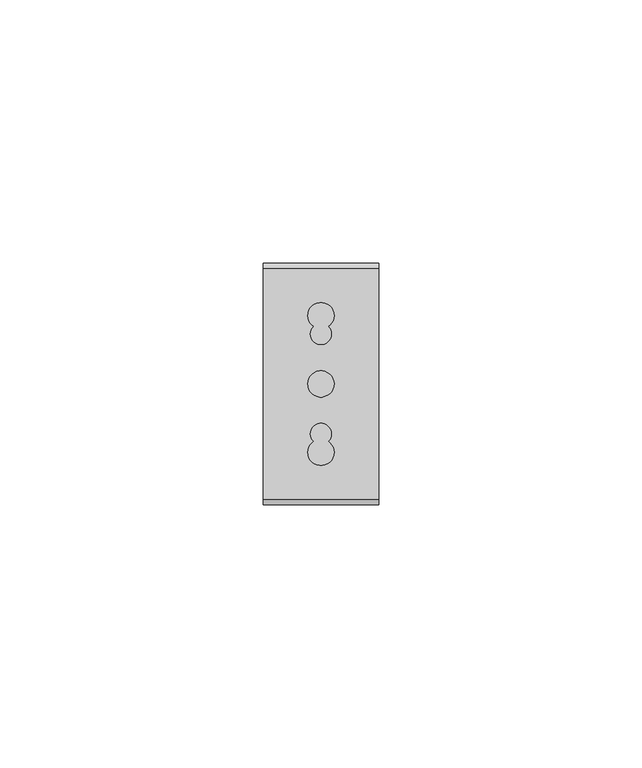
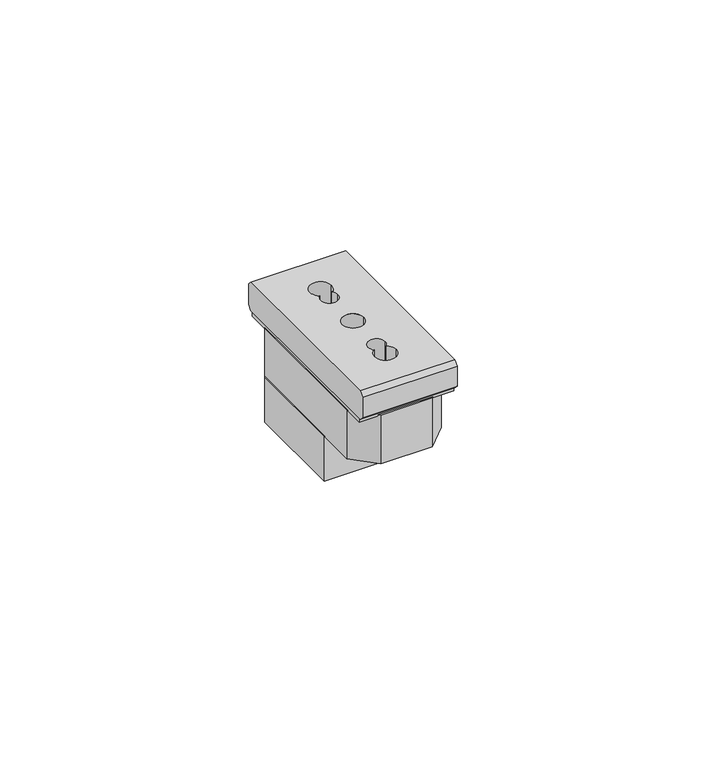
"""IFC4 building model written with IfcOpenShell, lengths in millimetres: proxy geometry, L4180 LI Presa FM 2P+T 10-16A bipasso : L4180 LI Presa 2P+T 10-16A bipasso."""

import ifcopenshell
import ifcopenshell.guid

model = None  # the IFC model being written
_history = None  # IfcOwnerHistory: only IFC2X3 demands one
_inside = {}  # id of a spatial element -> (the spatial element, [elements in it])
_under = {}  # id of a project, library or spatial element -> (it, [spatial elements below it])
_declared = {}  # id of a project -> (the project, [libraries it declares])
_typed = {}  # id of a type object -> (the type object, [elements of that type])
_made_of = {}  # id of a material, layer set ... -> (it, [elements and type objects made of it])


def new_model(schema):
    """Start an empty IFC model of exactly this schema.

    Asked for "IFC4X3", IfcOpenShell would pick the latest addendum, in which some entities
    have other attributes; the version numbers below select the first issue.
    IFC2X3 requires an IfcOwnerHistory on every rooted entity: one is made here for all.
    """
    global model, _history
    if schema == "IFC4X3":
        model = ifcopenshell.file(schema_version=(4, 3, 0, 0))
    else:
        model = ifcopenshell.file(schema=schema)
    _inside.clear()
    _under.clear()
    _declared.clear()
    _typed.clear()
    _made_of.clear()
    _history = None
    if model.schema == "IFC2X3":
        org = make("IfcOrganization", Name="unknown")
        user = make(
            "IfcPersonAndOrganization",
            ThePerson=make("IfcPerson", FamilyName="unknown"),
            TheOrganization=org,
        )
        app = make(
            "IfcApplication",
            ApplicationDeveloper=org,
            Version="unknown",
            ApplicationFullName="unknown",
            ApplicationIdentifier="unknown",
        )
        _history = make(
            "IfcOwnerHistory",
            OwningUser=user,
            OwningApplication=app,
            ChangeAction="ADDED",
            CreationDate=0,
        )
    return model


def make(cls, **values):
    """One entity of the class cls with the attributes given. An attribute that is None is left unset."""
    return model.create_entity(
        cls, **{name: value for name, value in values.items() if value is not None}
    )


def rooted(cls, **values):
    """An entity with a GlobalId (a new one), such as an element, a storey or a relation."""
    return make(cls, GlobalId=ifcopenshell.guid.new(), OwnerHistory=_history, **values)


def si_unit(unit_type, name, prefix=None):
    """IfcSIUnit, for example si_unit("LENGTHUNIT", "METRE", prefix="MILLI")."""
    return make("IfcSIUnit", UnitType=unit_type, Prefix=prefix, Name=name)


def assignment(units):
    """IfcUnitAssignment: the units of a project."""
    return None if units is None else make("IfcUnitAssignment", Units=units)


def point(xyz):
    """IfcCartesianPoint."""
    return None if xyz is None else make("IfcCartesianPoint", Coordinates=xyz)


def direction(xyz):
    """IfcDirection."""
    return None if xyz is None else make("IfcDirection", DirectionRatios=xyz)


def frame(location, z_axis=None, x_axis=None):
    """IfcAxis2Placement3D, a coordinate frame: its origin and axes. An axis left out is left unset."""
    return make(
        "IfcAxis2Placement3D",
        Location=point(location),
        Axis=direction(z_axis),
        RefDirection=direction(x_axis),
    )


def origin():
    """The frame at (0, 0, 0) with its axes left unset."""
    return frame((0.0, 0.0, 0.0))


def origin_with_axes():
    """The frame at (0, 0, 0) with the z axis (0, 0, 1) and the x axis (1, 0, 0) written out."""
    return frame((0.0, 0.0, 0.0), z_axis=(0.0, 0.0, 1.0), x_axis=(1.0, 0.0, 0.0))


def place(relative_to, where):
    """IfcLocalPlacement: puts the frame where relative to a parent placement (None: the world)."""
    return make(
        "IfcLocalPlacement", PlacementRelTo=relative_to, RelativePlacement=where
    )


def context(
    kind, dimensions, precision=None, world=None, true_north=None, identifier=None
):
    """IfcGeometricRepresentationContext, for example the 3D "Model" context."""
    return make(
        "IfcGeometricRepresentationContext",
        ContextIdentifier=identifier,
        ContextType=kind,
        CoordinateSpaceDimension=dimensions,
        Precision=precision,
        WorldCoordinateSystem=world,
        TrueNorth=true_north,
    )


def project(units=None, contexts=None):
    """IfcProject with its units and contexts."""
    return rooted(
        "IfcProject",
        Name="project",
        RepresentationContexts=contexts,
        UnitsInContext=assignment(units),
    )


def spatial(cls, under=None, at=None, **own):
    """A site, building, storey or space (cls), placed at a placement, below another one or the project."""
    s = rooted(cls, ObjectPlacement=at, **own)
    if under is not None:
        _under.setdefault(under.id(), (under, []))[1].append(s)
    return s


def polyline(points):
    """IfcPolyline through the points."""
    return make("IfcPolyline", Points=[point(p) for p in points])


def circle_curve(where, radius):
    """IfcCircle in the frame where."""
    return make("IfcCircle", Position=where, Radius=radius)


def outline(outer, holes=None, kind="AREA"):
    """IfcArbitraryClosedProfileDef: a profile drawn as a closed curve; with holes, ...WithVoids."""
    if holes is None:
        return make("IfcArbitraryClosedProfileDef", ProfileType=kind, OuterCurve=outer)
    return make(
        "IfcArbitraryProfileDefWithVoids",
        ProfileType=kind,
        OuterCurve=outer,
        InnerCurves=holes,
    )


def extrude(swept, where, along, depth):
    """IfcExtrudedAreaSolid: the profile swept, set in the frame where, extruded along a direction by depth."""
    return make(
        "IfcExtrudedAreaSolid",
        SweptArea=swept,
        Position=where,
        ExtrudedDirection=direction(along),
        Depth=depth,
    )


def shape(context_of_items, identifier, shape_type, items):
    """IfcShapeRepresentation: the items that make up one representation, for example the "Body"."""
    return make(
        "IfcShapeRepresentation",
        ContextOfItems=context_of_items,
        RepresentationIdentifier=identifier,
        RepresentationType=shape_type,
        Items=items,
    )


def source(mapping_origin, context_of_items, identifier, shape_type, items):
    """IfcRepresentationMap: a shape defined once, which mapped items show again and again."""
    return make(
        "IfcRepresentationMap",
        MappingOrigin=mapping_origin,
        MappedRepresentation=shape(context_of_items, identifier, shape_type, items),
    )


def transform(
    local_origin,
    x_axis=None,
    y_axis=None,
    z_axis=None,
    scale=None,
    scale2=None,
    scale3=None,
    uniform=True,
):
    """IfcCartesianTransformationOperator3D, or its non-uniform kind. x_axis, y_axis, z_axis: its Axis1, 2, 3."""
    if uniform:
        return make(
            "IfcCartesianTransformationOperator3D",
            Axis1=direction(x_axis),
            Axis2=direction(y_axis),
            LocalOrigin=point(local_origin),
            Scale=scale,
            Axis3=direction(z_axis),
        )
    return make(
        "IfcCartesianTransformationOperator3DnonUniform",
        Axis1=direction(x_axis),
        Axis2=direction(y_axis),
        LocalOrigin=point(local_origin),
        Scale=scale,
        Axis3=direction(z_axis),
        Scale2=scale2,
        Scale3=scale3,
    )


def mapped(mapping_source, mapping_target):
    """IfcMappedItem: shows the shape of a source again, moved by a transform."""
    return make(
        "IfcMappedItem", MappingSource=mapping_source, MappingTarget=mapping_target
    )


def made_of(thing, what):
    """Note that an element or type object is made of a material, layer set ...; save() writes the relation."""
    if what is not None:
        _made_of.setdefault(what.id(), (what, []))[1].append(thing)
    return thing


def element(
    cls,
    number,
    at=None,
    inside=None,
    cuts=None,
    type_object=None,
    material=None,
    context=None,
    identifier="Body",
    shape_type=None,
    held_by="IfcProductDefinitionShape",
    body=None,
    shapes=None,
    **own,
):
    """One element of the class cls, such as IfcWall. Its Tag is "e" and its number.

    at: its placement. inside: the storey or other place that contains it. cuts: it is an
    opening in that element (IfcRelVoidsElement). A single representation is given by context,
    identifier, shape_type and body (its items); several are given by shapes. held_by: the class
    of the entity that holds the representations. save() writes the other relations.
    """
    e = rooted(cls, Tag="e%d" % number, ObjectPlacement=at, **own)
    if body is not None:
        shapes = [shape(context, identifier, shape_type, body)]
    if shapes is not None:
        e.Representation = make(held_by, Representations=shapes)
    if inside is not None:
        _inside.setdefault(inside.id(), (inside, []))[1].append(e)
    if cuts is not None:
        rooted(
            "IfcRelVoidsElement", RelatingBuildingElement=cuts, RelatedOpeningElement=e
        )
    if type_object is not None:
        _typed.setdefault(type_object.id(), (type_object, []))[1].append(e)
    return made_of(e, material)


def aggregate(whole, parts):
    """IfcRelAggregates: a whole, such as a stair, and the parts it consists of."""
    return rooted("IfcRelAggregates", RelatingObject=whole, RelatedObjects=parts)


def save(model, path):
    """Write the relations noted so far, then the file.

    IfcRelAggregates (storeys below a building ...), IfcRelContainedInSpatialStructure (elements
    in a storey), IfcRelDefinesByType, IfcRelAssociatesMaterial and IfcRelDeclares: one each for
    every whole, place, type object, material and project.
    """
    for whole, parts in _under.values():
        aggregate(whole, parts)
    for where, things in _inside.values():
        rooted(
            "IfcRelContainedInSpatialStructure",
            RelatedElements=things,
            RelatingStructure=where,
        )
    for kind, things in _typed.values():
        rooted("IfcRelDefinesByType", RelatedObjects=things, RelatingType=kind)
    for what, things in _made_of.values():
        rooted("IfcRelAssociatesMaterial", RelatedObjects=things, RelatingMaterial=what)
    for by, libraries in _declared.values():
        rooted("IfcRelDeclares", RelatingContext=by, RelatedDefinitions=libraries)
    model.write(path)


def plane_surface(at):
    """IfcPlane: the flat surface through the origin of the frame at, square to its z axis."""
    return make("IfcPlane", Position=at)


def revolved_surface(curve, axis_point, axis_direction):
    """IfcSurfaceOfRevolution: the curve turned about the line through axis_point along axis_direction."""
    return make(
        "IfcSurfaceOfRevolution",
        SweptCurve=make("IfcArbitraryOpenProfileDef", ProfileType="CURVE", Curve=curve),
        AxisPosition=make("IfcAxis1Placement", Location=point(axis_point), Axis=direction(axis_direction)),
    )


def advanced_brep(points, edges, surfaces, faces):
    """IfcAdvancedBrep: a solid bounded by faces that lie on surfaces and meet in shared edges.

    An edge is (start, end): straight between two places in points (the first is 0);
    or (start, end, curve); or (start, end, curve, False) where it runs against its curve.
    A face is (place in surfaces, loops), or (place, loops, False) where it looks against
    its surface's normal. A loop lists edges by number (the first is 1), with a minus sign
    where the edge is run from its end to its start. The first loop is the outer one.
    """
    corners = [point(p) for p in points]
    vertices = [make("IfcVertexPoint", VertexGeometry=c) for c in corners]
    made = []
    for start, end, *more in edges:
        made.append(
            make(
                "IfcEdgeCurve",
                EdgeStart=vertices[start],
                EdgeEnd=vertices[end],
                EdgeGeometry=more[0] if more else make("IfcPolyline", Points=[corners[start], corners[end]]),
                SameSense=more[1] if len(more) > 1 else True,
            )
        )
    hull = []
    for where, loops, *sense in faces:
        bounds = []
        for j, loop in enumerate(loops):
            ring = [make("IfcOrientedEdge", EdgeElement=made[abs(k) - 1], Orientation=k > 0) for k in loop]
            bounds.append(
                make(
                    "IfcFaceOuterBound" if j == 0 else "IfcFaceBound",
                    Bound=make("IfcEdgeLoop", EdgeList=ring),
                    Orientation=True,
                )
            )
        hull.append(make("IfcAdvancedFace", Bounds=bounds, FaceSurface=surfaces[where], SameSense=sense[0] if sense else True))
    return make("IfcAdvancedBrep", Outer=make("IfcClosedShell", CfsFaces=hull))


def electrical_fixtures_45f50b36(model_context):
    return source(origin(), model_context, "Body", "SolidModel", [
        advanced_brep(
        [(11.0, -22.0, 1.0), (11.0, 22.0, 1.0), (11.0, 22.9899495, 1.9899495), (11.0, 22.9899495, 6.9899495), (11.0, 22.0, 7.979899), (11.0, -22.0, 7.979899), (11.0, -22.9899495, 6.9899495), (11.0, -22.9899495, 1.9899495), (-11.0, -22.0, 1.0), (-11.0, -22.9899495, 1.9899495), (-11.0, -22.9899495, 6.9899495), (-11.0, -22.0, 7.979899), (-11.0, 22.0, 7.979899), (-11.0, 22.9899495, 6.9899495), (-11.0, 22.9899495, 1.9899495), (-11.0, 22.0, 1.0), (-2.0, 9.5, 1.0), (2.0, 9.5, 1.0), (1.3997084, 10.9285714, 1.0), (2.5, 13.0, 1.0), (-2.5, 13.0, 1.0), (-1.3997084, 10.9285714, 1.0), (2.0, -9.5, 1.0), (-2.0, -9.5, 1.0), (-1.3997084, -10.9285714, 1.0), (-2.5, -13.0, 1.0), (2.5, -13.0, 1.0), (1.3997084, -10.9285714, 1.0), (-2.5, 0.0, 1.0), (2.5, 0.0, 1.0), (2.0, 9.5, 7.979899), (-2.0, 9.5, 7.979899), (-1.3997084, 10.9285714, 7.979899), (-2.5, 13.0, 7.979899), (2.5, 13.0, 7.979899), (1.3997084, 10.9285714, 7.979899), (-2.0, -9.5, 7.979899), (2.0, -9.5, 7.979899), (1.3997084, -10.9285714, 7.979899), (2.5, -13.0, 7.979899), (-2.5, -13.0, 7.979899), (-1.3997084, -10.9285714, 7.979899), (2.5, 0.0, 7.979899), (-2.5, 0.0, 7.979899)],
        [
            (0, 1),
            (1, 2),
            (2, 3),
            (3, 4),
            (4, 5),
            (5, 6),
            (6, 7),
            (7, 0),
            (8, 9),
            (9, 10),
            (10, 11),
            (11, 12),
            (12, 13),
            (13, 14),
            (14, 15),
            (15, 8),
            (0, 8),
            (15, 1),
            (16, 17, circle_curve(frame((0.0, 9.5, 1.0), z_axis=(0.0, 0.0, 1.0), x_axis=(1.0, 0.0, 0.0)), 2.0)),
            (17, 18, circle_curve(frame((0.0, 9.5, 1.0), z_axis=(0.0, 0.0, 1.0), x_axis=(1.0, 0.0, 0.0)), 2.0)),
            (18, 19, circle_curve(frame((0.0, 13.0, 1.0), z_axis=(0.0, 0.0, 1.0), x_axis=(1.0, 0.0, 0.0)), 2.5)),
            (19, 20, circle_curve(frame((0.0, 13.0, 1.0), z_axis=(0.0, 0.0, 1.0), x_axis=(1.0, 0.0, 0.0)), 2.5)),
            (20, 21, circle_curve(frame((0.0, 13.0, 1.0), z_axis=(0.0, 0.0, 1.0), x_axis=(1.0, 0.0, 0.0)), 2.5)),
            (21, 16, circle_curve(frame((0.0, 9.5, 1.0), z_axis=(0.0, 0.0, 1.0), x_axis=(1.0, 0.0, 0.0)), 2.0)),
            (22, 23, circle_curve(frame((0.0, -9.5, 1.0), z_axis=(0.0, 0.0, 1.0), x_axis=(1.0, 0.0, 0.0)), 2.0)),
            (23, 24, circle_curve(frame((0.0, -9.5, 1.0), z_axis=(0.0, 0.0, 1.0), x_axis=(1.0, 0.0, 0.0)), 2.0)),
            (24, 25, circle_curve(frame((0.0, -13.0, 1.0), z_axis=(0.0, 0.0, 1.0), x_axis=(1.0, 0.0, 0.0)), 2.5)),
            (25, 26, circle_curve(frame((0.0, -13.0, 1.0), z_axis=(0.0, 0.0, 1.0), x_axis=(1.0, 0.0, 0.0)), 2.5)),
            (26, 27, circle_curve(frame((0.0, -13.0, 1.0), z_axis=(0.0, 0.0, 1.0), x_axis=(1.0, 0.0, 0.0)), 2.5)),
            (27, 22, circle_curve(frame((0.0, -9.5, 1.0), z_axis=(0.0, 0.0, 1.0), x_axis=(1.0, 0.0, 0.0)), 2.0)),
            (28, 29, circle_curve(frame((0.0, 0.0, 1.0), z_axis=(0.0, 0.0, 1.0), x_axis=(1.0, 0.0, 0.0)), 2.5)),
            (29, 28, circle_curve(frame((0.0, 0.0, 1.0), z_axis=(0.0, 0.0, 1.0), x_axis=(1.0, 0.0, 0.0)), 2.5)),
            (5, 11),
            (10, 6),
            (9, 7),
            (14, 2),
            (13, 3),
            (12, 4),
            (30, 31, circle_curve(frame((0.0, 9.5, 7.979899), z_axis=(0.0, 0.0, -1.0), x_axis=(1.0, 0.0, 0.0)), 2.0)),
            (31, 32, circle_curve(frame((0.0, 9.5, 7.979899), z_axis=(0.0, 0.0, -1.0), x_axis=(1.0, 0.0, 0.0)), 2.0)),
            (32, 33, circle_curve(frame((0.0, 13.0, 7.979899), z_axis=(0.0, 0.0, -1.0), x_axis=(1.0, 0.0, 0.0)), 2.5)),
            (33, 34, circle_curve(frame((0.0, 13.0, 7.979899), z_axis=(0.0, 0.0, -1.0), x_axis=(1.0, 0.0, 0.0)), 2.5)),
            (34, 35, circle_curve(frame((0.0, 13.0, 7.979899), z_axis=(0.0, 0.0, -1.0), x_axis=(1.0, 0.0, 0.0)), 2.5)),
            (35, 30, circle_curve(frame((0.0, 9.5, 7.979899), z_axis=(0.0, 0.0, -1.0), x_axis=(1.0, 0.0, 0.0)), 2.0)),
            (36, 37, circle_curve(frame((0.0, -9.5, 7.979899), z_axis=(0.0, 0.0, -1.0), x_axis=(1.0, 0.0, 0.0)), 2.0)),
            (37, 38, circle_curve(frame((0.0, -9.5, 7.979899), z_axis=(0.0, 0.0, -1.0), x_axis=(1.0, 0.0, 0.0)), 2.0)),
            (38, 39, circle_curve(frame((0.0, -13.0, 7.979899), z_axis=(0.0, 0.0, -1.0), x_axis=(1.0, 0.0, 0.0)), 2.5)),
            (39, 40, circle_curve(frame((0.0, -13.0, 7.979899), z_axis=(0.0, 0.0, -1.0), x_axis=(1.0, 0.0, 0.0)), 2.5)),
            (40, 41, circle_curve(frame((0.0, -13.0, 7.979899), z_axis=(0.0, 0.0, -1.0), x_axis=(1.0, 0.0, 0.0)), 2.5)),
            (41, 36, circle_curve(frame((0.0, -9.5, 7.979899), z_axis=(0.0, 0.0, -1.0), x_axis=(1.0, 0.0, 0.0)), 2.0)),
            (42, 43, circle_curve(frame((0.0, 0.0, 7.979899), z_axis=(0.0, 0.0, -1.0), x_axis=(1.0, 0.0, 0.0)), 2.5)),
            (43, 42, circle_curve(frame((0.0, 0.0, 7.979899), z_axis=(0.0, 0.0, -1.0), x_axis=(1.0, 0.0, 0.0)), 2.5)),
            (30, 17),
            (16, 31),
            (21, 32),
            (35, 18),
            (23, 36),
            (41, 24),
            (37, 22),
            (27, 38),
            (20, 33),
            (34, 19),
            (39, 26),
            (25, 40),
            (42, 29),
            (28, 43),
        ],
        [
            plane_surface(frame((11.0, 0.0, 1.0), z_axis=(1.0, 0.0, 0.0), x_axis=(0.0, 1.0, 0.0))),
            plane_surface(frame((-11.0, 0.0, 1.0), z_axis=(-1.0, 0.0, 0.0), x_axis=(0.0, -1.0, 0.0))),
            plane_surface(frame((11.0, -22.0, 1.0), z_axis=(0.0, 0.0, -1.0), x_axis=(-1.0, 0.0, 0.0))),
            plane_surface(frame((11.0, -22.0, 7.979899), z_axis=(0.0, -0.7071067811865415, 0.7071067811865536), x_axis=(-1.0, 0.0, 0.0))),
            plane_surface(frame((11.0, -22.9899495, 6.9899495), z_axis=(0.0, -1.0, 0.0), x_axis=(-1.0, 0.0, 0.0))),
            plane_surface(frame((11.0, -22.9899495, 1.9899495), z_axis=(0.0, -0.707106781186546, -0.707106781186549), x_axis=(-1.0, 0.0, 0.0))),
            plane_surface(frame((11.0, 22.0, 1.0), z_axis=(0.0, 0.7071067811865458, -0.7071067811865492), x_axis=(-1.0, 0.0, 0.0))),
            plane_surface(frame((11.0, 22.9899495, 1.9899495), z_axis=(0.0, 1.0, 0.0), x_axis=(-1.0, 0.0, 0.0))),
            plane_surface(frame((11.0, 22.9899495, 6.9899495), z_axis=(0.0, 0.7071067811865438, 0.7071067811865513), x_axis=(-1.0, 0.0, 0.0))),
            plane_surface(frame((11.0, 22.0, 7.979899), z_axis=(0.0, 0.0, 1.0), x_axis=(-1.0, 0.0, 0.0))),
            revolved_surface(polyline([(2.0, 9.5, 7.979899), (2.0, 9.5, 1.0)]), (0.0, 9.5, 1.0), (0.0, 0.0, 1.0)),
            revolved_surface(polyline([(2.0, -9.5, 7.979899), (2.0, -9.5, 1.0)]), (0.0, -9.5, 0.0), (0.0, 0.0, 1.0)),
            revolved_surface(polyline([(2.5, 13.0, 7.979899), (2.5, 13.0, 1.0)]), (0.0, 13.0, 1.0), (0.0, 0.0, 1.0)),
            revolved_surface(polyline([(2.5, -13.0, 7.979899), (2.5, -13.0, 1.0)]), (0.0, -13.0, 0.0), (0.0, 0.0, 1.0)),
            revolved_surface(polyline([(2.5, 0.0, 7.979899), (2.5, 0.0, 1.0)]), (0.0, 0.0, 0.0), (0.0, 0.0, 1.0)),
        ],
        [
            (0, [[1, 2, 3, 4, 5, 6, 7, 8]]),
            (1, [[9, 10, 11, 12, 13, 14, 15, 16]]),
            (2, [[-1, 17, -16, 18], [19, 20, 21, 22, 23, 24], [25, 26, 27, 28, 29, 30], [31, 32]]),
            (3, [[-6, 33, -11, 34]]),
            (4, [[-7, -34, -10, 35]]),
            (5, [[-8, -35, -9, -17]]),
            (6, [[-2, -18, -15, 36]]),
            (7, [[-3, -36, -14, 37]]),
            (8, [[-4, -37, -13, 38]]),
            (9, [[-5, -38, -12, -33], [39, 40, 41, 42, 43, 44], [45, 46, 47, 48, 49, 50], [51, 52]]),
            (10, [[53, -19, 54, -39]]),
            (10, [[-54, -24, 55, -40]]),
            (10, [[-53, -44, 56, -20]]),
            (11, [[57, -50, 58, -26]]),
            (11, [[59, -30, 60, -46]]),
            (11, [[-59, -45, -57, -25]]),
            (12, [[61, -41, -55, -23]]),
            (12, [[62, -21, -56, -43]]),
            (12, [[-62, -42, -61, -22]]),
            (13, [[63, -28, 64, -48]]),
            (13, [[-64, -27, -58, -49]]),
            (13, [[-63, -47, -60, -29]]),
            (14, [[65, -31, 66, -51]]),
            (14, [[-65, -52, -66, -32]]),
        ],
    ),
        extrude(outline(polyline([(-11.0, -7.5), (-11.0, 16.5), (-9.0, 18.5), (9.0, 18.5), (11.0, 16.5), (11.0, -7.5), (-11.0, -7.5)])), frame((0.0, 0.0, -23.0), z_axis=(0.0, 0.0, 1.0), x_axis=(1.0, 0.0, 0.0)), (0.0, 0.0, 1.0), 11.0),
        extrude(outline(polyline([(11.0, -16.5), (6.0, -21.5), (-6.0, -21.5), (-11.0, -16.5), (-11.0, 16.5), (-6.0, 21.5), (6.0, 21.5), (11.0, 16.5), (11.0, -16.5)])), frame((0.0, 0.0, -12.0), z_axis=(0.0, 0.0, 1.0), x_axis=(1.0, 0.0, 0.0)), (0.0, 0.0, 1.0), 12.0),
        extrude(outline(polyline([(11.0, -21.5), (-11.0, -21.5), (-11.0, 21.5), (11.0, 21.5), (11.0, -21.5)])), origin_with_axes(), (0.0, 0.0, 1.0), 1.0),
    ])


if __name__ == "__main__":
    model = new_model("IFC4")
    model_context = context("Model", 3, world=origin())
    ifc_project = project(units=[si_unit("LENGTHUNIT", "METRE", prefix="MILLI")], contexts=[model_context])
    site = spatial("IfcSite", under=ifc_project)
    building = spatial("IfcBuilding", under=site)
    placement = place(None, origin())
    electrical_fixtures_shape = electrical_fixtures_45f50b36(model_context)
    element("IfcBuildingElementProxy", 1, Name="L4180 LI Presa FM 2P+T 10-16A bipasso : L4180 LI Presa 2P+T 10-16A bipasso", ObjectType="L4180 LI Presa FM 2P+T 10-16A bipasso : L4180 LI Presa 2P+T 10-16A bipasso", at=placement, inside=building, context=model_context, shape_type="MappedRepresentation", body=[
        mapped(electrical_fixtures_shape, transform((0.0, 0.0, 0.0), x_axis=(1.0, 0.0, 0.0), y_axis=(0.0, 1.0, 0.0), z_axis=(0.0, 0.0, 1.0))),
    ])
    save(model, "model.ifc")
